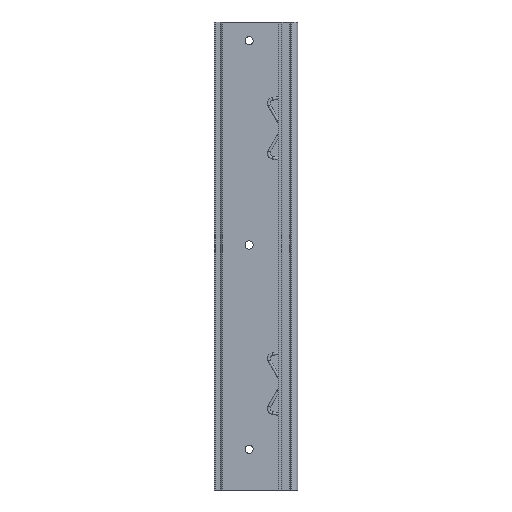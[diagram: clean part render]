
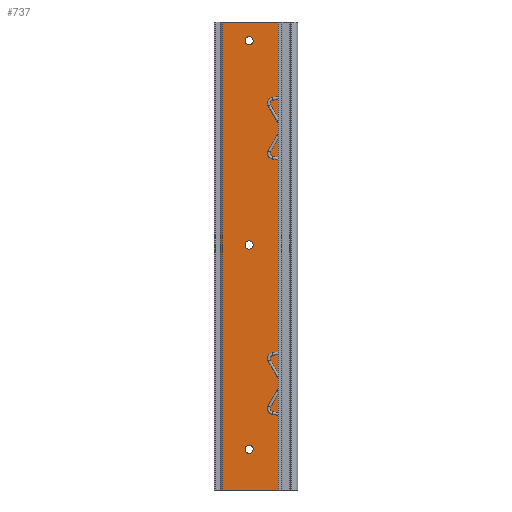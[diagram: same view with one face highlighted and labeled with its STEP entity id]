
A CAD part, left-side view. The second image highlights one B-rep face of the part: STEP entity #737.
In plain terms, the highlighted planar face has unit normal (-1, 0, 0).
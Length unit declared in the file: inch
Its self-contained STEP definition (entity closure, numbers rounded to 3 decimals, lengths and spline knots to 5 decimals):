
#139=DIRECTION('',(0.,1.,0.));
#140=VECTOR('',#139,1.3025);
#141=CARTESIAN_POINT('',(-0.08,0.455,9.34839));
#142=LINE('',#141,#140);
#143=DIRECTION('',(0.,1.,0.));
#144=VECTOR('',#143,1.3025);
#145=CARTESIAN_POINT('',(-0.08,0.455,-1.47839));
#146=LINE('',#145,#144);
#147=DIRECTION('',(0.,0.,1.));
#148=VECTOR('',#147,10.82677);
#149=CARTESIAN_POINT('',(-0.08,1.7575,-1.47839));
#150=LINE('',#149,#148);
#151=CARTESIAN_POINT('',(-0.08,1.13,-0.53485));
#152=DIRECTION('',(1.,0.,0.));
#153=DIRECTION('',(0.,-1.,0.));
#154=AXIS2_PLACEMENT_3D('',#151,#152,#153);
#156=CARTESIAN_POINT('',(-0.08,1.13,-0.53485));
#157=DIRECTION('',(1.,0.,0.));
#158=DIRECTION('',(0.,1.,0.));
#159=AXIS2_PLACEMENT_3D('',#156,#157,#158);
#161=CARTESIAN_POINT('',(-0.08,1.13,4.18956));
#162=DIRECTION('',(1.,0.,0.));
#163=DIRECTION('',(0.,-1.,0.));
#164=AXIS2_PLACEMENT_3D('',#161,#162,#163);
#166=CARTESIAN_POINT('',(-0.08,1.13,4.18956));
#167=DIRECTION('',(1.,0.,0.));
#168=DIRECTION('',(0.,1.,0.));
#169=AXIS2_PLACEMENT_3D('',#166,#167,#168);
#171=CARTESIAN_POINT('',(-0.08,1.13,8.91398));
#172=DIRECTION('',(-1.,0.,0.));
#173=DIRECTION('',(0.,1.,0.));
#174=AXIS2_PLACEMENT_3D('',#171,#172,#173);
#176=CARTESIAN_POINT('',(-0.08,1.13,8.91398));
#177=DIRECTION('',(-1.,0.,0.));
#178=DIRECTION('',(0.,-1.,0.));
#179=AXIS2_PLACEMENT_3D('',#176,#177,#178);
#189=DIRECTION('',(0.,0.,1.));
#190=VECTOR('',#189,10.82677);
#191=CARTESIAN_POINT('',(-0.08,0.455,-1.47839));
#192=LINE('',#191,#190);
#355=CARTESIAN_POINT('',(-0.08,1.03551,-0.53485));
#356=CARTESIAN_POINT('',(-0.08,1.22449,-0.53485));
#357=VERTEX_POINT('',#355);
#358=VERTEX_POINT('',#356);
#363=CARTESIAN_POINT('',(-0.08,1.03551,4.18956));
#364=CARTESIAN_POINT('',(-0.08,1.22449,4.18956));
#365=VERTEX_POINT('',#363);
#366=VERTEX_POINT('',#364);
#403=CARTESIAN_POINT('',(-0.08,0.455,9.34839));
#404=CARTESIAN_POINT('',(-0.08,1.7575,9.34839));
#405=VERTEX_POINT('',#403);
#406=VERTEX_POINT('',#404);
#407=CARTESIAN_POINT('',(-0.08,0.455,-1.47839));
#408=CARTESIAN_POINT('',(-0.08,1.7575,-1.47839));
#409=VERTEX_POINT('',#407);
#410=VERTEX_POINT('',#408);
#460=CARTESIAN_POINT('',(-0.08,1.22449,8.91398));
#462=VERTEX_POINT('',#460);
#464=CARTESIAN_POINT('',(-0.08,1.03551,8.91398));
#466=VERTEX_POINT('',#464);
#707=CARTESIAN_POINT('',(-0.08,0.455,7.87));
#708=DIRECTION('',(1.,0.,0.));
#709=DIRECTION('',(0.,1.,0.));
#710=AXIS2_PLACEMENT_3D('',#707,#708,#709);
#711=PLANE('',#710);
#712=ORIENTED_EDGE('',*,*,#514,.F.);
#714=ORIENTED_EDGE('',*,*,#713,.F.);
#715=ORIENTED_EDGE('',*,*,#661,.T.);
#716=ORIENTED_EDGE('',*,*,#700,.T.);
#717=EDGE_LOOP('',(#712,#714,#715,#716));
#718=FACE_OUTER_BOUND('',#717,.F.);
#720=ORIENTED_EDGE('',*,*,#719,.F.);
#722=ORIENTED_EDGE('',*,*,#721,.F.);
#723=EDGE_LOOP('',(#720,#722));
#724=FACE_BOUND('',#723,.F.);
#726=ORIENTED_EDGE('',*,*,#725,.F.);
#728=ORIENTED_EDGE('',*,*,#727,.F.);
#729=EDGE_LOOP('',(#726,#728));
#730=FACE_BOUND('',#729,.F.);
#732=ORIENTED_EDGE('',*,*,#731,.T.);
#734=ORIENTED_EDGE('',*,*,#733,.T.);
#735=EDGE_LOOP('',(#732,#734));
#736=FACE_BOUND('',#735,.F.);
#737=ADVANCED_FACE('',(#718,#724,#730,#736),#711,.F.);
#155=CIRCLE('',#154,0.09449);
#160=CIRCLE('',#159,0.09449);
#165=CIRCLE('',#164,0.09449);
#170=CIRCLE('',#169,0.09449);
#175=CIRCLE('',#174,0.09449);
#180=CIRCLE('',#179,0.09449);
#514=EDGE_CURVE('',#405,#406,#142,.T.);
#661=EDGE_CURVE('',#409,#410,#146,.T.);
#700=EDGE_CURVE('',#410,#406,#150,.T.);
#713=EDGE_CURVE('',#409,#405,#192,.T.);
#719=EDGE_CURVE('',#357,#358,#155,.T.);
#721=EDGE_CURVE('',#358,#357,#160,.T.);
#725=EDGE_CURVE('',#365,#366,#165,.T.);
#727=EDGE_CURVE('',#366,#365,#170,.T.);
#731=EDGE_CURVE('',#462,#466,#175,.T.);
#733=EDGE_CURVE('',#466,#462,#180,.T.);
